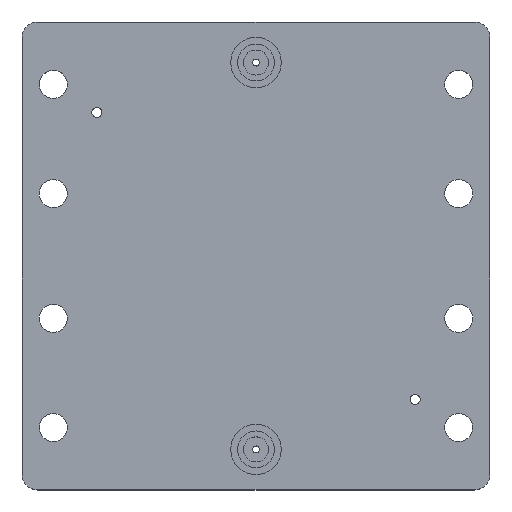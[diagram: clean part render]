
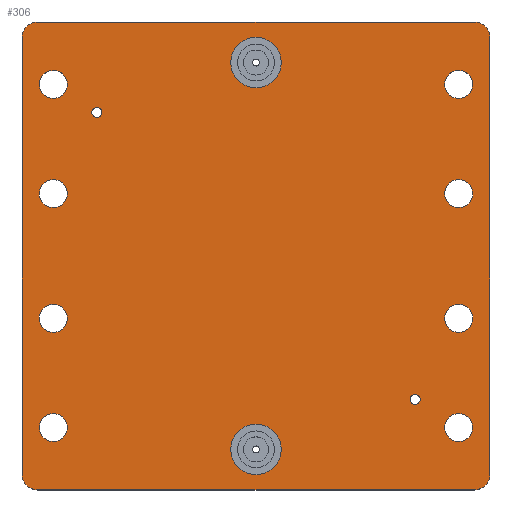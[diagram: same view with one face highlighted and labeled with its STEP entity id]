
A CAD part, top view. The second image highlights one B-rep face of the part: STEP entity #306.
In plain terms, the highlighted planar face has unit normal (0, 0, 1).
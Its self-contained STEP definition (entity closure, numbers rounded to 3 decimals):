
#24 = VERTEX_POINT('',#25);
#25 = CARTESIAN_POINT('',(-70.,-75.,14.));
#31 = EDGE_CURVE('',#24,#32,#34,.T.);
#32 = VERTEX_POINT('',#33);
#33 = CARTESIAN_POINT('',(70.,-75.,14.));
#34 = LINE('',#35,#36);
#35 = CARTESIAN_POINT('',(-70.,-75.,14.));
#36 = VECTOR('',#37,1.);
#37 = DIRECTION('',(1.,0.,0.));
#64 = VERTEX_POINT('',#65);
#65 = CARTESIAN_POINT('',(-75.,-70.,14.));
#71 = EDGE_CURVE('',#64,#24,#72,.T.);
#72 = CIRCLE('',#73,5.);
#73 = AXIS2_PLACEMENT_3D('',#74,#75,#76);
#74 = CARTESIAN_POINT('',(-70.,-70.,14.));
#75 = DIRECTION('',(0.,0.,1.));
#76 = DIRECTION('',(1.,0.,0.));
#95 = EDGE_CURVE('',#32,#96,#98,.T.);
#96 = VERTEX_POINT('',#97);
#97 = CARTESIAN_POINT('',(75.,-70.,14.));
#98 = CIRCLE('',#99,5.);
#99 = AXIS2_PLACEMENT_3D('',#100,#101,#102);
#100 = CARTESIAN_POINT('',(70.,-70.,14.));
#101 = DIRECTION('',(0.,0.,1.));
#102 = DIRECTION('',(1.,0.,0.));
#306 = ADVANCED_FACE('',(#307,#352,#363,#374,#385,#396,#407,#418,#429,
    #440,#451,#462,#473),#484,.T.);
#307 = FACE_BOUND('',#308,.T.);
#308 = EDGE_LOOP('',(#309,#310,#311,#319,#328,#336,#345,#351));
#309 = ORIENTED_EDGE('',*,*,#31,.T.);
#310 = ORIENTED_EDGE('',*,*,#95,.T.);
#311 = ORIENTED_EDGE('',*,*,#312,.T.);
#312 = EDGE_CURVE('',#96,#313,#315,.T.);
#313 = VERTEX_POINT('',#314);
#314 = CARTESIAN_POINT('',(75.,70.,14.));
#315 = LINE('',#316,#317);
#316 = CARTESIAN_POINT('',(75.,-70.,14.));
#317 = VECTOR('',#318,1.);
#318 = DIRECTION('',(0.,1.,0.));
#319 = ORIENTED_EDGE('',*,*,#320,.T.);
#320 = EDGE_CURVE('',#313,#321,#323,.T.);
#321 = VERTEX_POINT('',#322);
#322 = CARTESIAN_POINT('',(70.,75.,14.));
#323 = CIRCLE('',#324,5.);
#324 = AXIS2_PLACEMENT_3D('',#325,#326,#327);
#325 = CARTESIAN_POINT('',(70.,70.,14.));
#326 = DIRECTION('',(0.,0.,1.));
#327 = DIRECTION('',(1.,0.,0.));
#328 = ORIENTED_EDGE('',*,*,#329,.T.);
#329 = EDGE_CURVE('',#321,#330,#332,.T.);
#330 = VERTEX_POINT('',#331);
#331 = CARTESIAN_POINT('',(-70.,75.,14.));
#332 = LINE('',#333,#334);
#333 = CARTESIAN_POINT('',(70.,75.,14.));
#334 = VECTOR('',#335,1.);
#335 = DIRECTION('',(-1.,0.,0.));
#336 = ORIENTED_EDGE('',*,*,#337,.T.);
#337 = EDGE_CURVE('',#330,#338,#340,.T.);
#338 = VERTEX_POINT('',#339);
#339 = CARTESIAN_POINT('',(-75.,70.,14.));
#340 = CIRCLE('',#341,5.);
#341 = AXIS2_PLACEMENT_3D('',#342,#343,#344);
#342 = CARTESIAN_POINT('',(-70.,70.,14.));
#343 = DIRECTION('',(0.,0.,1.));
#344 = DIRECTION('',(1.,0.,0.));
#345 = ORIENTED_EDGE('',*,*,#346,.T.);
#346 = EDGE_CURVE('',#338,#64,#347,.T.);
#347 = LINE('',#348,#349);
#348 = CARTESIAN_POINT('',(-75.,70.,14.));
#349 = VECTOR('',#350,1.);
#350 = DIRECTION('',(0.,-1.,0.));
#351 = ORIENTED_EDGE('',*,*,#71,.T.);
#352 = FACE_BOUND('',#353,.T.);
#353 = EDGE_LOOP('',(#354));
#354 = ORIENTED_EDGE('',*,*,#355,.F.);
#355 = EDGE_CURVE('',#356,#356,#358,.T.);
#356 = VERTEX_POINT('',#357);
#357 = CARTESIAN_POINT('',(-60.5,-55.,14.));
#358 = CIRCLE('',#359,4.5);
#359 = AXIS2_PLACEMENT_3D('',#360,#361,#362);
#360 = CARTESIAN_POINT('',(-65.,-55.,14.));
#361 = DIRECTION('',(0.,0.,1.));
#362 = DIRECTION('',(1.,0.,0.));
#363 = FACE_BOUND('',#364,.T.);
#364 = EDGE_LOOP('',(#365));
#365 = ORIENTED_EDGE('',*,*,#366,.F.);
#366 = EDGE_CURVE('',#367,#367,#369,.T.);
#367 = VERTEX_POINT('',#368);
#368 = CARTESIAN_POINT('',(-60.5,-20.,14.));
#369 = CIRCLE('',#370,4.5);
#370 = AXIS2_PLACEMENT_3D('',#371,#372,#373);
#371 = CARTESIAN_POINT('',(-65.,-20.,14.));
#372 = DIRECTION('',(0.,0.,1.));
#373 = DIRECTION('',(1.,0.,0.));
#374 = FACE_BOUND('',#375,.T.);
#375 = EDGE_LOOP('',(#376));
#376 = ORIENTED_EDGE('',*,*,#377,.F.);
#377 = EDGE_CURVE('',#378,#378,#380,.T.);
#378 = VERTEX_POINT('',#379);
#379 = CARTESIAN_POINT('',(8.1,-62.,14.));
#380 = CIRCLE('',#381,8.1);
#381 = AXIS2_PLACEMENT_3D('',#382,#383,#384);
#382 = CARTESIAN_POINT('',(0.,-62.,14.));
#383 = DIRECTION('',(0.,0.,1.));
#384 = DIRECTION('',(1.,0.,0.));
#385 = FACE_BOUND('',#386,.T.);
#386 = EDGE_LOOP('',(#387));
#387 = ORIENTED_EDGE('',*,*,#388,.F.);
#388 = EDGE_CURVE('',#389,#389,#391,.T.);
#389 = VERTEX_POINT('',#390);
#390 = CARTESIAN_POINT('',(69.5,-55.,14.));
#391 = CIRCLE('',#392,4.5);
#392 = AXIS2_PLACEMENT_3D('',#393,#394,#395);
#393 = CARTESIAN_POINT('',(65.,-55.,14.));
#394 = DIRECTION('',(0.,0.,1.));
#395 = DIRECTION('',(1.,0.,0.));
#396 = FACE_BOUND('',#397,.T.);
#397 = EDGE_LOOP('',(#398));
#398 = ORIENTED_EDGE('',*,*,#399,.F.);
#399 = EDGE_CURVE('',#400,#400,#402,.T.);
#400 = VERTEX_POINT('',#401);
#401 = CARTESIAN_POINT('',(52.6,-46.,14.));
#402 = CIRCLE('',#403,1.6);
#403 = AXIS2_PLACEMENT_3D('',#404,#405,#406);
#404 = CARTESIAN_POINT('',(51.,-46.,14.));
#405 = DIRECTION('',(0.,0.,1.));
#406 = DIRECTION('',(1.,0.,0.));
#407 = FACE_BOUND('',#408,.T.);
#408 = EDGE_LOOP('',(#409));
#409 = ORIENTED_EDGE('',*,*,#410,.F.);
#410 = EDGE_CURVE('',#411,#411,#413,.T.);
#411 = VERTEX_POINT('',#412);
#412 = CARTESIAN_POINT('',(69.5,-20.,14.));
#413 = CIRCLE('',#414,4.5);
#414 = AXIS2_PLACEMENT_3D('',#415,#416,#417);
#415 = CARTESIAN_POINT('',(65.,-20.,14.));
#416 = DIRECTION('',(0.,0.,1.));
#417 = DIRECTION('',(1.,0.,0.));
#418 = FACE_BOUND('',#419,.T.);
#419 = EDGE_LOOP('',(#420));
#420 = ORIENTED_EDGE('',*,*,#421,.F.);
#421 = EDGE_CURVE('',#422,#422,#424,.T.);
#422 = VERTEX_POINT('',#423);
#423 = CARTESIAN_POINT('',(-60.5,20.,14.));
#424 = CIRCLE('',#425,4.5);
#425 = AXIS2_PLACEMENT_3D('',#426,#427,#428);
#426 = CARTESIAN_POINT('',(-65.,20.,14.));
#427 = DIRECTION('',(0.,0.,1.));
#428 = DIRECTION('',(1.,0.,0.));
#429 = FACE_BOUND('',#430,.T.);
#430 = EDGE_LOOP('',(#431));
#431 = ORIENTED_EDGE('',*,*,#432,.F.);
#432 = EDGE_CURVE('',#433,#433,#435,.T.);
#433 = VERTEX_POINT('',#434);
#434 = CARTESIAN_POINT('',(-49.4,46.,14.));
#435 = CIRCLE('',#436,1.6);
#436 = AXIS2_PLACEMENT_3D('',#437,#438,#439);
#437 = CARTESIAN_POINT('',(-51.,46.,14.));
#438 = DIRECTION('',(0.,0.,1.));
#439 = DIRECTION('',(1.,0.,0.));
#440 = FACE_BOUND('',#441,.T.);
#441 = EDGE_LOOP('',(#442));
#442 = ORIENTED_EDGE('',*,*,#443,.F.);
#443 = EDGE_CURVE('',#444,#444,#446,.T.);
#444 = VERTEX_POINT('',#445);
#445 = CARTESIAN_POINT('',(-60.5,55.,14.));
#446 = CIRCLE('',#447,4.5);
#447 = AXIS2_PLACEMENT_3D('',#448,#449,#450);
#448 = CARTESIAN_POINT('',(-65.,55.,14.));
#449 = DIRECTION('',(0.,0.,1.));
#450 = DIRECTION('',(1.,0.,0.));
#451 = FACE_BOUND('',#452,.T.);
#452 = EDGE_LOOP('',(#453));
#453 = ORIENTED_EDGE('',*,*,#454,.F.);
#454 = EDGE_CURVE('',#455,#455,#457,.T.);
#455 = VERTEX_POINT('',#456);
#456 = CARTESIAN_POINT('',(69.5,20.,14.));
#457 = CIRCLE('',#458,4.5);
#458 = AXIS2_PLACEMENT_3D('',#459,#460,#461);
#459 = CARTESIAN_POINT('',(65.,20.,14.));
#460 = DIRECTION('',(0.,0.,1.));
#461 = DIRECTION('',(1.,0.,0.));
#462 = FACE_BOUND('',#463,.T.);
#463 = EDGE_LOOP('',(#464));
#464 = ORIENTED_EDGE('',*,*,#465,.F.);
#465 = EDGE_CURVE('',#466,#466,#468,.T.);
#466 = VERTEX_POINT('',#467);
#467 = CARTESIAN_POINT('',(8.1,62.,14.));
#468 = CIRCLE('',#469,8.1);
#469 = AXIS2_PLACEMENT_3D('',#470,#471,#472);
#470 = CARTESIAN_POINT('',(0.,62.,14.));
#471 = DIRECTION('',(0.,0.,1.));
#472 = DIRECTION('',(1.,0.,0.));
#473 = FACE_BOUND('',#474,.T.);
#474 = EDGE_LOOP('',(#475));
#475 = ORIENTED_EDGE('',*,*,#476,.F.);
#476 = EDGE_CURVE('',#477,#477,#479,.T.);
#477 = VERTEX_POINT('',#478);
#478 = CARTESIAN_POINT('',(69.5,55.,14.));
#479 = CIRCLE('',#480,4.5);
#480 = AXIS2_PLACEMENT_3D('',#481,#482,#483);
#481 = CARTESIAN_POINT('',(65.,55.,14.));
#482 = DIRECTION('',(0.,0.,1.));
#483 = DIRECTION('',(1.,0.,0.));
#484 = PLANE('',#485);
#485 = AXIS2_PLACEMENT_3D('',#486,#487,#488);
#486 = CARTESIAN_POINT('',(0.,0.,14.)
  );
#487 = DIRECTION('',(0.,0.,1.));
#488 = DIRECTION('',(1.,0.,0.));
